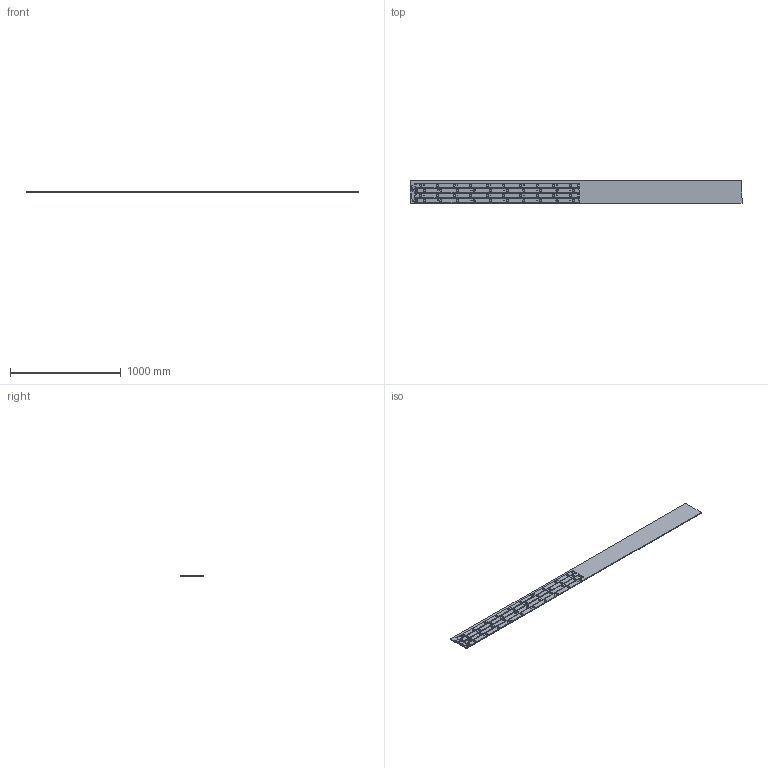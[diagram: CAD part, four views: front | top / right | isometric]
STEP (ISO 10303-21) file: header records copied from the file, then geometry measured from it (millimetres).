
FILE_DESCRIPTION(/* description */ (''),/* implementation_level */ '2;1');
FILE_NAME(/* name */ 'C:/Users/jakob/Documents/GitHub/fabricatable-machines/humphrey-large-format-cnc/humphrey_v3/parts/alu/step/y-rails.step',/* time_stamp */ '2018-08-17T09:38:27+02:00',/* author */ ('jaknil'),/* organization */ (''),/* preprocessor_version */ 'ST-DEVELOPER v17',/* originating_system */ 'Autodesk Translation Framework v7.1.0.215',/* authorisation */ '');
FILE_SCHEMA (('AUTOMOTIVE_DESIGN { 1 0 10303 214 3 1 1 }'));
Length unit declared in the file: millimetre
Products named in the file (7): CAM Y-rails; stock; y-rack small teeth; layout; Rack(Mirror); Rack; y-rack_joiner
Assembly tree (11 placements, depth 4):
  CAM Y-rails
    stock
    y-rack small teeth
      layout
        Rack  x2
        Rack(Mirror)  x2
    y-rack_joiner  x4
Bounding box: 3000 x 200 x 8 mm (x, y, z)
Surface area: 1831226.4 mm2
Topology: 9 solids, 9 shells, 782 faces, 2160 edges, 1440 vertices
Faces by surface type: cylinder 312, plane 302, bspline 168
Full cylindrical faces by diameter (mm): 4.4 x8, 5.5 x8, 6 x20, 9 x8
Entity records: 14310 total; most frequent: CARTESIAN_POINT 4821, ORIENTED_EDGE 2052, DIRECTION 1722, EDGE_CURVE 1026, VERTEX_POINT 684, AXIS2_PLACEMENT_3D 592, LINE 538, VECTOR 538
